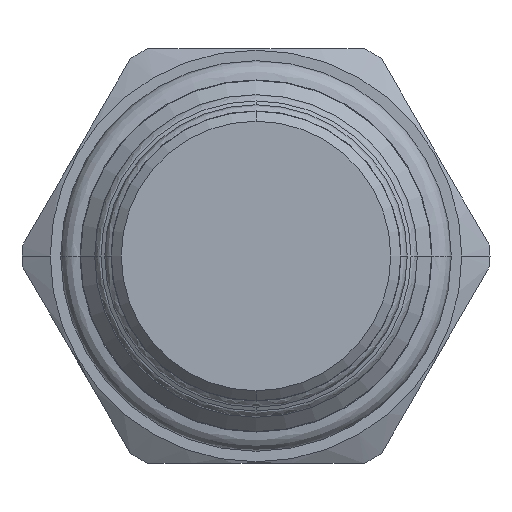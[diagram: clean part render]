
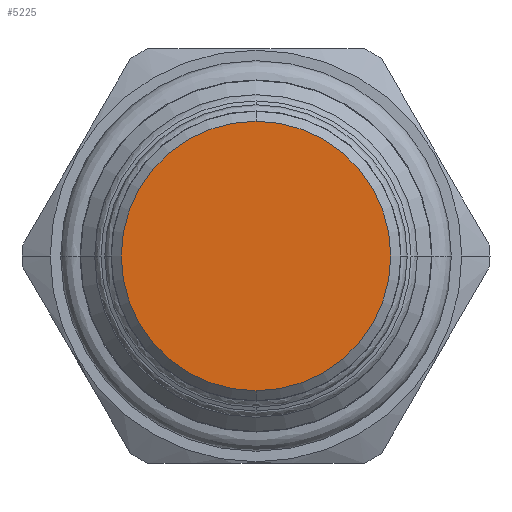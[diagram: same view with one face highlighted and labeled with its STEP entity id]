
A CAD part, front view. The second image highlights one B-rep face of the part: STEP entity #5225.
In plain terms, the highlighted planar face has unit normal (0, -1, 0).
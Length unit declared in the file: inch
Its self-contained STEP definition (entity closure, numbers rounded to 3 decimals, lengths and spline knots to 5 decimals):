
#1733=CARTESIAN_POINT('',(0.,-2.7795,0.));
#1734=DIRECTION('',(0.,1.,0.));
#1735=DIRECTION('',(0.,0.,-1.));
#1736=AXIS2_PLACEMENT_3D('',#1733,#1734,#1735);
#1743=CARTESIAN_POINT('',(0.,-2.7795,0.));
#1744=DIRECTION('',(0.,1.,0.));
#1745=DIRECTION('',(0.,0.,1.));
#1746=AXIS2_PLACEMENT_3D('',#1743,#1744,#1745);
#2926=CARTESIAN_POINT('',(0.,-2.7795,-0.406));
#2927=CARTESIAN_POINT('',(0.,-2.7795,0.406));
#2928=VERTEX_POINT('',#2926);
#2929=VERTEX_POINT('',#2927);
#5215=CARTESIAN_POINT('',(0.,-2.7795,0.));
#5216=DIRECTION('',(0.,-1.,0.));
#5217=DIRECTION('',(0.,0.,-1.));
#5218=AXIS2_PLACEMENT_3D('',#5215,#5216,#5217);
#5219=PLANE('',#5218);
#5221=ORIENTED_EDGE('',*,*,#5220,.T.);
#5222=ORIENTED_EDGE('',*,*,#5205,.T.);
#5223=EDGE_LOOP('',(#5221,#5222));
#5224=FACE_OUTER_BOUND('',#5223,.F.);
#5225=ADVANCED_FACE('',(#5224),#5219,.T.);
#1737=CIRCLE('',#1736,0.406);
#1747=CIRCLE('',#1746,0.406);
#5205=EDGE_CURVE('',#2928,#2929,#1737,.T.);
#5220=EDGE_CURVE('',#2929,#2928,#1747,.T.);
